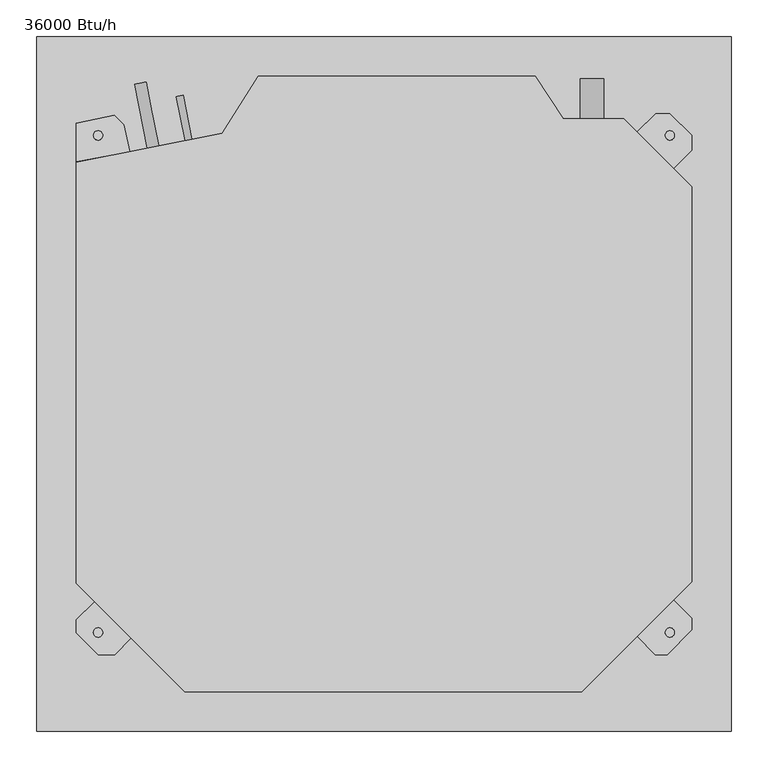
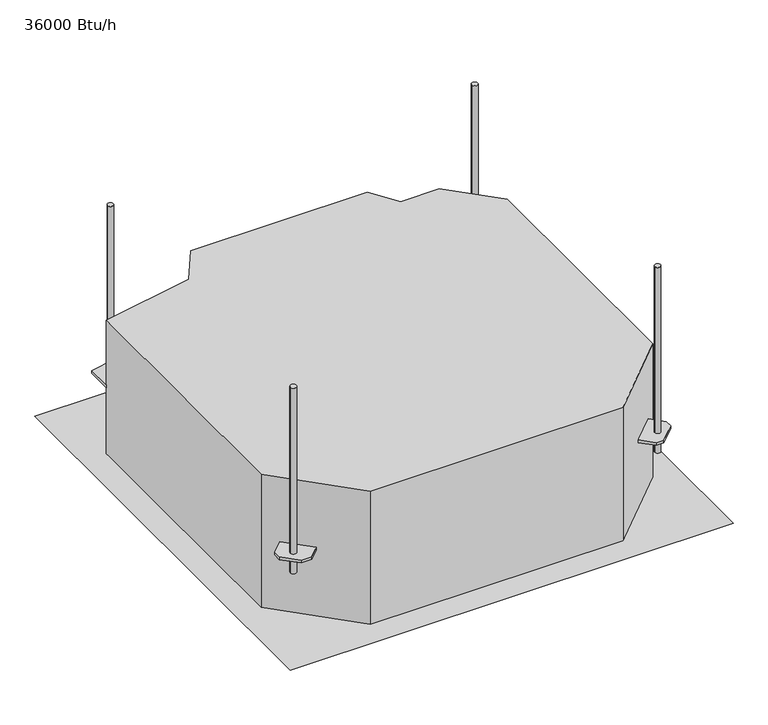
"""IFC4 building model written with IfcOpenShell, lengths in millimetres: proxy geometry, Heat_Pump_System-VRF-Lennox-Ceiling_Cassette-V33B_Series : 36000 Btu/h."""

from ifc_helpers import new_model, si_unit, point, frame, frame_2d, origin, origin_with_axes, place, context, project, spatial, polyline, circle_curve, ellipse_curve, trimmed, segment, composite_curve, outline, extrude, source, transform, mapped, element, save
from ifc_brep_helpers import plane_surface, cylinder_surface, advanced_brep


def proxy_36000_btu_h_1ba30d73(model_context):
    return source(origin(), model_context, "Body", "SolidModel", [
        advanced_brep(
        [(-271.5821113, 332.3930598, 149.6), (-262.2363052, 334.2319543, 149.6), (-266.9092082, 333.312507, 149.6), (-283.3992509, 392.4512636, 149.6), (-274.0534448, 394.290158, 149.6), (-278.7263478, 393.3707108, 149.6)],
        [
            (0, 1, circle_curve(frame((-266.9092082, 333.312507, 149.6), z_axis=(0.19305978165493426, -0.9811869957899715, 0.0), x_axis=(0.9811869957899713, 0.1930597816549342, 0.0)), 4.7625)),
            (1, 2),
            (2, 0),
            (1, 0, circle_curve(frame((-266.9092082, 333.312507, 149.6), z_axis=(0.19305978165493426, -0.9811869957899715, 0.0), x_axis=(0.9811869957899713, 0.1930597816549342, 0.0)), 4.7625)),
            (3, 4, circle_curve(frame((-278.7263478, 393.3707108, 149.6), z_axis=(0.19305978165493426, -0.9811869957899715, 0.0), x_axis=(0.9811869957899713, 0.1930597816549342, 0.0)), 4.7625)),
            (4, 1),
            (0, 3),
            (4, 3, circle_curve(frame((-278.7263478, 393.3707108, 149.6), z_axis=(0.19305978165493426, -0.9811869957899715, 0.0), x_axis=(0.9811869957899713, 0.1930597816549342, 0.0)), 4.7625)),
            (5, 4),
            (3, 5),
        ],
        [
            plane_surface(frame((-266.9092082, 333.312507, 149.6), z_axis=(0.19305978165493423, -0.9811869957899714, 0.0), x_axis=(0.9811869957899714, 0.19305978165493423, 0.0))),
            cylinder_surface(frame((-286.8962351, 434.892498, 149.6), z_axis=(-0.1930597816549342, 0.9811869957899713, 0.0), x_axis=(0.9811869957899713, 0.1930597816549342, 0.0)), 4.7625),
            plane_surface(frame((-278.7263478, 393.3707108, 149.6), z_axis=(-0.19305978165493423, 0.9811869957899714, 0.0), x_axis=(0.9811869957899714, 0.19305978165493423, 0.0))),
        ],
        [
            (0, [[1, 2, 3]]),
            (0, [[4, -3, -2]]),
            (1, [[5, 6, -1, 7]]),
            (1, [[8, -7, -4, -6]]),
            (2, [[9, -5, 10]]),
            (2, [[-10, -8, -9]]),
        ],
    ),
        advanced_brep(
        [(-323.3548557, 322.171397, 175.0), (-307.7803329, 325.24546, 175.0), (-315.5675943, 323.7084285, 175.0), (-340.5546493, 409.312937, 175.0), (-324.9801264, 412.3869999, 175.0), (-332.7673878, 410.8499685, 175.0)],
        [
            (0, 1, circle_curve(frame((-315.5675943, 323.7084285, 175.0), z_axis=(0.19364175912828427, -0.9810723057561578, 0.0), x_axis=(0.9810723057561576, 0.1936417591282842, 0.0)), 7.9375)),
            (1, 2),
            (2, 0),
            (1, 0, circle_curve(frame((-315.5675943, 323.7084285, 175.0), z_axis=(0.19364175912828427, -0.9810723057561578, 0.0), x_axis=(0.9810723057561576, 0.1936417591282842, 0.0)), 7.9375)),
            (3, 4, circle_curve(frame((-332.7673878, 410.8499685, 175.0), z_axis=(0.19364175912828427, -0.9810723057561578, 0.0), x_axis=(0.9810723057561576, 0.1936417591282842, 0.0)), 7.9375)),
            (4, 1),
            (0, 3),
            (4, 3, circle_curve(frame((-332.7673878, 410.8499685, 175.0), z_axis=(0.19364175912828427, -0.9810723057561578, 0.0), x_axis=(0.9810723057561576, 0.1936417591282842, 0.0)), 7.9375)),
            (5, 4),
            (3, 5),
        ],
        [
            plane_surface(frame((-315.5675943, 323.7084285, 175.0), z_axis=(0.19364175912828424, -0.9810723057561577, 0.0), x_axis=(0.9810723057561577, 0.19364175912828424, 0.0))),
            cylinder_surface(frame((-338.9155137, 441.9990142, 175.0), z_axis=(-0.1936417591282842, 0.9810723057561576, 0.0), x_axis=(0.9810723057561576, 0.1936417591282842, 0.0)), 7.9375),
            plane_surface(frame((-332.7673878, 410.8499685, 175.0), z_axis=(-0.19364175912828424, 0.9810723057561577, 0.0), x_axis=(0.9810723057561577, 0.19364175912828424, 0.0))),
        ],
        [
            (0, [[1, 2, 3]]),
            (0, [[4, -3, -2]]),
            (1, [[5, 6, -1, 7]]),
            (1, [[8, -7, -4, -6]]),
            (2, [[9, -5, 10]]),
            (2, [[-10, -8, -9]]),
        ],
    ),
        extrude(outline(composite_curve([segment(trimmed(circle_curve(frame_2d((238.5, 284.1166696)), 15.875), [point((238.5, 268.2416696))], [point((238.5, 299.9916696))], False, "CARTESIAN"), True, "CONTINUOUS"), segment(trimmed(circle_curve(frame_2d((238.5, 284.1166696)), 15.875), [point((238.5, 299.9916696))], [point((238.5, 268.2416696))], False, "CARTESIAN"), True, "CONTINUOUS")], self_intersect=False)), frame((0.0, 362.6637621, 0.0), z_axis=(0.0, 1.0, 0.0), x_axis=(0.0, 0.0, 1.0)), (0.0, 0.0, 1.0), 54.5217168),
        advanced_brep(
        [(-384.15, -339.5, 531.8360013), (-396.85, -339.5, 531.8360013), (-384.15, -339.5, 111.5), (-396.85, -339.5, 111.5), (-384.15, -339.5, 155.95), (-396.85, -339.5, 155.95), (-396.85, -339.5, 149.6), (-384.15, -339.5, 149.6), (-367.9974747, -369.4938, 155.95), (-345.3335843, -346.8023279, 155.95), (-395.0774029, -297.2585093, 155.95), (-420.497, -322.1791643, 155.95), (-420.497, -339.5, 155.95), (-390.5, -369.4938, 155.95), (-367.9974747, -369.4938, 149.6), (-390.5, -369.4938, 149.6), (-420.497, -339.5, 149.6), (-420.497, -322.1791643, 149.6), (-395.0774029, -297.2585093, 149.6), (-345.3335843, -346.8023279, 149.6)],
        [
            (0, 1, circle_curve(frame((-390.5, -339.5, 531.8360013), z_axis=(0.0, 0.0, 1.0), x_axis=(-1.0, 0.0, 0.0)), 6.35)),
            (1, 0, circle_curve(frame((-390.5, -339.5, 531.8360013), z_axis=(0.0, 0.0, 1.0), x_axis=(-1.0, 0.0, 0.0)), 6.35)),
            (2, 3, circle_curve(frame((-390.5, -339.5, 111.5), z_axis=(0.0, 0.0, -1.0), x_axis=(-1.0, 0.0, 0.0)), 6.35)),
            (3, 2, circle_curve(frame((-390.5, -339.5, 111.5), z_axis=(0.0, 0.0, -1.0), x_axis=(-1.0, 0.0, 0.0)), 6.35)),
            (0, 4),
            (4, 5, circle_curve(frame((-390.5, -339.5, 155.95), z_axis=(0.0, 0.0, 1.0), x_axis=(-1.0, 0.0, 0.0)), 6.35)),
            (5, 1),
            (3, 6),
            (6, 7, circle_curve(frame((-390.5, -339.5, 149.6), z_axis=(0.0, 0.0, -1.0), x_axis=(-1.0, 0.0, 0.0)), 6.35)),
            (7, 2),
            (5, 4, circle_curve(frame((-390.5, -339.5, 155.95), z_axis=(0.0, 0.0, 1.0), x_axis=(-1.0, 0.0, 0.0)), 6.35)),
            (7, 6, circle_curve(frame((-390.5, -339.5, 149.6), z_axis=(0.0, 0.0, -1.0), x_axis=(-1.0, 0.0, 0.0)), 6.35)),
            (8, 9),
            (9, 10),
            (10, 11),
            (11, 12),
            (12, 13),
            (13, 8),
            (14, 15),
            (15, 16),
            (16, 17),
            (17, 18),
            (18, 19),
            (19, 14),
            (8, 14),
            (19, 9),
            (10, 18),
            (17, 11),
            (16, 12),
            (15, 13),
        ],
        [
            plane_surface(frame((-396.85, -339.5, 531.8360013), z_axis=(0.0, 0.0, 1.0), x_axis=(0.0, -1.0, 0.0))),
            plane_surface(frame((-396.85, -339.5, 111.5), z_axis=(0.0, 0.0, -1.0), x_axis=(0.0, 1.0, 0.0))),
            cylinder_surface(frame((-390.5, -339.5, 111.5), z_axis=(0.0, 0.0, 1.0), x_axis=(-1.0, 0.0, 0.0)), 6.35),
            plane_surface(frame((395.6658777, -295.0900121, 155.95), z_axis=(0.0, 0.0, 1.0), x_axis=(-0.7107859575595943, 0.7034083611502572, 0.0))),
            plane_surface(frame((395.6658777, -295.0900121, 149.6), z_axis=(0.0, 0.0, -1.0), x_axis=(0.7107859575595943, -0.7034083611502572, 0.0))),
            plane_surface(frame((-367.9974747, -369.4938, 155.95), z_axis=(0.7075366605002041, -0.706676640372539, 0.0), x_axis=(0.0, 0.0, -1.0))),
            plane_surface(frame((-395.0774029, -297.2585093, 155.95), z_axis=(-0.700063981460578, 0.7140801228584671, 0.0), x_axis=(0.0, 0.0, -1.0))),
            plane_surface(frame((-420.497, -322.1791643, 155.95), z_axis=(-1.0, 0.0, 0.0), x_axis=(0.0, 0.0, -1.0))),
            plane_surface(frame((-420.497, -339.5, 155.95), z_axis=(-0.7070690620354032, -0.707144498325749, 0.0), x_axis=(0.0, 0.0, -1.0))),
            plane_surface(frame((-390.5, -369.4938, 155.95), z_axis=(0.0, -1.0, 0.0), x_axis=(0.0, 0.0, -1.0))),
            plane_surface(frame((-345.3335843, -346.8023279, 155.95), z_axis=(0.7056809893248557, 0.7085297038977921, 0.0), x_axis=(0.0, 0.0, -1.0))),
        ],
        [
            (0, [[1, 2]]),
            (1, [[3, 4]]),
            (2, [[-1, 5, 6, 7]]),
            (2, [[-4, 8, 9, 10]]),
            (2, [[-2, -7, 11, -5]]),
            (2, [[-3, -10, 12, -8]]),
            (3, [[13, 14, 15, 16, 17, 18], [-6, -11]]),
            (4, [[19, 20, 21, 22, 23, 24], [-9, -12]]),
            (5, [[-13, 25, -24, 26]]),
            (6, [[-15, 27, -22, 28]]),
            (7, [[-16, -28, -21, 29]]),
            (8, [[-17, -29, -20, 30]]),
            (9, [[-18, -30, -19, -25]]),
            (10, [[-14, -26, -23, -27]]),
        ],
    ),
        advanced_brep(
        [(396.85, -339.5, 531.8360013), (384.15, -339.5, 531.8360013), (396.85, -339.5, 111.5), (384.15, -339.5, 111.5), (396.85, -339.5, 155.95), (384.15, -339.5, 155.95), (384.15, -339.5, 149.6), (396.85, -339.5, 149.6), (420.497, -319.6634, 155.95), (395.6658777, -295.0900121, 155.95), (345.9327842, -344.6231057, 155.95), (370.7868978, -369.4938, 155.95), (386.933146, -369.4938, 155.95), (420.497, -335.933146, 155.95), (420.497, -319.6634, 149.6), (420.497, -335.933146, 149.6), (386.933146, -369.4938, 149.6), (370.7868978, -369.4938, 149.6), (345.9327842, -344.6231057, 149.6), (395.6658777, -295.0900121, 149.6)],
        [
            (0, 1, circle_curve(frame((390.5, -339.5, 531.8360013), z_axis=(0.0, 0.0, 1.0), x_axis=(-1.0, 0.0, 0.0)), 6.35)),
            (1, 0, circle_curve(frame((390.5, -339.5, 531.8360013), z_axis=(0.0, 0.0, 1.0), x_axis=(-1.0, 0.0, 0.0)), 6.35)),
            (2, 3, circle_curve(frame((390.5, -339.5, 111.5), z_axis=(0.0, 0.0, -1.0), x_axis=(-1.0, 0.0, 0.0)), 6.35)),
            (3, 2, circle_curve(frame((390.5, -339.5, 111.5), z_axis=(0.0, 0.0, -1.0), x_axis=(-1.0, 0.0, 0.0)), 6.35)),
            (0, 4),
            (4, 5, circle_curve(frame((390.5, -339.5, 155.95), z_axis=(0.0, 0.0, 1.0), x_axis=(-1.0, 0.0, 0.0)), 6.35)),
            (5, 1),
            (3, 6),
            (6, 7, circle_curve(frame((390.5, -339.5, 149.6), z_axis=(0.0, 0.0, -1.0), x_axis=(-1.0, 0.0, 0.0)), 6.35)),
            (7, 2),
            (5, 4, circle_curve(frame((390.5, -339.5, 155.95), z_axis=(0.0, 0.0, 1.0), x_axis=(-1.0, 0.0, 0.0)), 6.35)),
            (7, 6, circle_curve(frame((390.5, -339.5, 149.6), z_axis=(0.0, 0.0, -1.0), x_axis=(-1.0, 0.0, 0.0)), 6.35)),
            (8, 9),
            (9, 10),
            (10, 11),
            (11, 12),
            (12, 13),
            (13, 8),
            (14, 15),
            (15, 16),
            (16, 17),
            (17, 18),
            (18, 19),
            (19, 14),
            (10, 18),
            (17, 11),
            (16, 12),
            (15, 13),
            (14, 8),
            (19, 9),
        ],
        [
            plane_surface(frame((-396.85, -339.5, 531.8360013), z_axis=(0.0, 0.0, 1.0), x_axis=(0.0, -1.0, 0.0))),
            plane_surface(frame((-396.85, -339.5, 111.5), z_axis=(0.0, 0.0, -1.0), x_axis=(0.0, 1.0, 0.0))),
            cylinder_surface(frame((390.5, -339.5, -229.0), z_axis=(0.0, 0.0, 1.0), x_axis=(-1.0, 0.0, 0.0)), 6.35),
            plane_surface(frame((395.6658777, -295.0900121, 155.95), z_axis=(0.0, 0.0, 1.0), x_axis=(-0.7107859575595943, 0.7034083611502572, 0.0))),
            plane_surface(frame((395.6658777, -295.0900121, 149.6), z_axis=(0.0, 0.0, -1.0), x_axis=(0.7107859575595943, -0.7034083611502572, 0.0))),
            plane_surface(frame((345.9327842, -344.6231057, 155.95), z_axis=(-0.7073425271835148, -0.706870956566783, 0.0), x_axis=(0.0, 0.0, -1.0))),
            plane_surface(frame((370.7868978, -369.4938, 155.95), z_axis=(0.0, -1.0, 0.0), x_axis=(0.0, 0.0, -1.0))),
            plane_surface(frame((386.933146, -369.4938, 155.95), z_axis=(0.7070730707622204, -0.7071404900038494, 0.0), x_axis=(0.0, 0.0, -1.0))),
            plane_surface(frame((420.497, -335.933146, 155.95), z_axis=(1.0, 0.0, 0.0), x_axis=(0.0, 0.0, -1.0))),
            plane_surface(frame((420.497, -319.6634, 155.95), z_axis=(0.7034083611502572, 0.7107859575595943, 0.0), x_axis=(0.0, 0.0, -1.0))),
            plane_surface(frame((395.6658777, -295.0900121, 155.95), z_axis=(-0.7056806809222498, 0.7085300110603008, 0.0), x_axis=(0.0, 0.0, -1.0))),
        ],
        [
            (0, [[1, 2]]),
            (1, [[3, 4]]),
            (2, [[-1, 5, 6, 7]]),
            (2, [[-4, 8, 9, 10]]),
            (2, [[-2, -7, 11, -5]]),
            (2, [[-3, -10, 12, -8]]),
            (3, [[13, 14, 15, 16, 17, 18], [-6, -11]]),
            (4, [[19, 20, 21, 22, 23, 24], [-9, -12]]),
            (5, [[-15, 25, -22, 26]]),
            (6, [[-16, -26, -21, 27]]),
            (7, [[-17, -27, -20, 28]]),
            (8, [[-18, -28, -19, 29]]),
            (9, [[-13, -29, -24, 30]]),
            (10, [[-14, -30, -23, -25]]),
        ],
    ),
        advanced_brep(
        [(396.85, 339.5, 531.8360013), (384.15, 339.5, 531.8360013), (396.85, 339.5, 111.5), (384.15, 339.5, 111.5), (396.85, 339.5, 155.95), (384.15, 339.5, 155.95), (384.15, 339.5, 149.6), (396.85, 339.5, 149.6), (371.0025253, 369.4938, 155.95), (345.9646499, 344.4231555, 155.95), (395.65445, 294.9333553, 155.95), (420.497, 319.3483007, 155.95), (420.497, 339.5, 155.95), (390.5, 369.4938, 155.95), (371.0025253, 369.4938, 149.6), (390.5, 369.4938, 149.6), (420.497, 339.5, 149.6), (420.497, 319.3483007, 149.6), (395.65445, 294.9333553, 149.6), (345.9646499, 344.4231555, 149.6)],
        [
            (0, 1, circle_curve(frame((390.5, 339.5, 531.8360013), z_axis=(0.0, 0.0, 1.0), x_axis=(-1.0, 0.0, 0.0)), 6.35)),
            (1, 0, circle_curve(frame((390.5, 339.5, 531.8360013), z_axis=(0.0, 0.0, 1.0), x_axis=(-1.0, 0.0, 0.0)), 6.35)),
            (2, 3, circle_curve(frame((390.5, 339.5, 111.5), z_axis=(0.0, 0.0, -1.0), x_axis=(-1.0, 0.0, 0.0)), 6.35)),
            (3, 2, circle_curve(frame((390.5, 339.5, 111.5), z_axis=(0.0, 0.0, -1.0), x_axis=(-1.0, 0.0, 0.0)), 6.35)),
            (0, 4),
            (4, 5, circle_curve(frame((390.5, 339.5, 155.95), z_axis=(0.0, 0.0, 1.0), x_axis=(-1.0, 0.0, 0.0)), 6.35)),
            (5, 1),
            (3, 6),
            (6, 7, circle_curve(frame((390.5, 339.5, 149.6), z_axis=(0.0, 0.0, -1.0), x_axis=(-1.0, 0.0, 0.0)), 6.35)),
            (7, 2),
            (5, 4, circle_curve(frame((390.5, 339.5, 155.95), z_axis=(0.0, 0.0, 1.0), x_axis=(-1.0, 0.0, 0.0)), 6.35)),
            (7, 6, circle_curve(frame((390.5, 339.5, 149.6), z_axis=(0.0, 0.0, -1.0), x_axis=(-1.0, 0.0, 0.0)), 6.35)),
            (8, 9),
            (9, 10),
            (10, 11),
            (11, 12),
            (12, 13),
            (13, 8),
            (14, 15),
            (15, 16),
            (16, 17),
            (17, 18),
            (18, 19),
            (19, 14),
            (10, 18),
            (17, 11),
            (16, 12),
            (15, 13),
            (14, 8),
            (19, 9),
        ],
        [
            plane_surface(frame((-396.85, -339.5, 531.8360013), z_axis=(0.0, 0.0, 1.0), x_axis=(0.0, -1.0, 0.0))),
            plane_surface(frame((-396.85, -339.5, 111.5), z_axis=(0.0, 0.0, -1.0), x_axis=(0.0, 1.0, 0.0))),
            cylinder_surface(frame((390.5, 339.5, -229.0), z_axis=(0.0, 0.0, 1.0), x_axis=(-1.0, 0.0, 0.0)), 6.35),
            plane_surface(frame((395.6658777, -295.0900121, 155.95), z_axis=(0.0, 0.0, 1.0), x_axis=(-0.7107859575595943, 0.7034083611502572, 0.0))),
            plane_surface(frame((395.6658777, -295.0900121, 149.6), z_axis=(0.0, 0.0, -1.0), x_axis=(0.7107859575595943, -0.7034083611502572, 0.0))),
            plane_surface(frame((395.65445, 294.9333553, 155.95), z_axis=(0.7009419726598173, -0.7132183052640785, 0.0), x_axis=(0.0, 0.0, -1.0))),
            plane_surface(frame((420.497, 319.3483007, 155.95), z_axis=(1.0, 0.0, 0.0), x_axis=(0.0, 0.0, -1.0))),
            plane_surface(frame((420.497, 339.5, 155.95), z_axis=(0.7070690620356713, 0.707144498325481, 0.0), x_axis=(0.0, 0.0, -1.0))),
            plane_surface(frame((390.5, 369.4938, 155.95), z_axis=(0.0, 1.0, 0.0), x_axis=(0.0, 0.0, -1.0))),
            plane_surface(frame((371.0025253, 369.4938, 155.95), z_axis=(-0.7075690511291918, 0.7066442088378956, 0.0), x_axis=(0.0, 0.0, -1.0))),
            plane_surface(frame((345.9646499, 344.4231555, 155.95), z_axis=(-0.7056794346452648, -0.7085312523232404, 0.0), x_axis=(0.0, 0.0, -1.0))),
        ],
        [
            (0, [[1, 2]]),
            (1, [[3, 4]]),
            (2, [[-1, 5, 6, 7]]),
            (2, [[-4, 8, 9, 10]]),
            (2, [[-2, -7, 11, -5]]),
            (2, [[-3, -10, 12, -8]]),
            (3, [[13, 14, 15, 16, 17, 18], [-6, -11]]),
            (4, [[19, 20, 21, 22, 23, 24], [-9, -12]]),
            (5, [[-15, 25, -22, 26]]),
            (6, [[-16, -26, -21, 27]]),
            (7, [[-17, -27, -20, 28]]),
            (8, [[-18, -28, -19, 29]]),
            (9, [[-13, -29, -24, 30]]),
            (10, [[-14, -30, -23, -25]]),
        ],
    ),
        advanced_brep(
        [(-384.15, 339.5, 531.8360013), (-396.85, 339.5, 531.8360013), (-384.15, 339.5, 111.5), (-396.85, 339.5, 111.5), (-384.15, 339.5, 155.95), (-396.85, 339.5, 155.95), (-396.85, 339.5, 149.6), (-384.15, 339.5, 149.6), (-420.497, 356.3926136, 155.95), (-420.497, 303.3475221, 155.95), (-347.5425513, 317.4885504, 155.95), (-355.2974559, 354.2974559, 155.95), (-368.460212, 367.454012, 155.95), (-420.497, 356.3926136, 149.6), (-368.460212, 367.454012, 149.6), (-355.2974559, 354.2974559, 149.6), (-347.5425513, 317.4885504, 149.6), (-420.497, 303.3475221, 149.6)],
        [
            (0, 1, circle_curve(frame((-390.5, 339.5, 531.8360013), z_axis=(0.0, 0.0, 1.0), x_axis=(-1.0, 0.0, 0.0)), 6.35)),
            (1, 0, circle_curve(frame((-390.5, 339.5, 531.8360013), z_axis=(0.0, 0.0, 1.0), x_axis=(-1.0, 0.0, 0.0)), 6.35)),
            (2, 3, circle_curve(frame((-390.5, 339.5, 111.5), z_axis=(0.0, 0.0, -1.0), x_axis=(-1.0, 0.0, 0.0)), 6.35)),
            (3, 2, circle_curve(frame((-390.5, 339.5, 111.5), z_axis=(0.0, 0.0, -1.0), x_axis=(-1.0, 0.0, 0.0)), 6.35)),
            (0, 4),
            (4, 5, circle_curve(frame((-390.5, 339.5, 155.95), z_axis=(0.0, 0.0, 1.0), x_axis=(-1.0, 0.0, 0.0)), 6.35)),
            (5, 1),
            (3, 6),
            (6, 7, circle_curve(frame((-390.5, 339.5, 149.6), z_axis=(0.0, 0.0, -1.0), x_axis=(-1.0, 0.0, 0.0)), 6.35)),
            (7, 2),
            (5, 4, circle_curve(frame((-390.5, 339.5, 155.95), z_axis=(0.0, 0.0, 1.0), x_axis=(-1.0, 0.0, 0.0)), 6.35)),
            (7, 6, circle_curve(frame((-390.5, 339.5, 149.6), z_axis=(0.0, 0.0, -1.0), x_axis=(-1.0, 0.0, 0.0)), 6.35)),
            (8, 9),
            (9, 10),
            (10, 11),
            (11, 12),
            (12, 8),
            (13, 14),
            (14, 15),
            (15, 16),
            (16, 17),
            (17, 13),
            (8, 13),
            (17, 9),
            (10, 16),
            (15, 11),
            (14, 12),
        ],
        [
            plane_surface(frame((-396.85, -339.5, 531.8360013), z_axis=(0.0, 0.0, 1.0), x_axis=(0.0, -1.0, 0.0))),
            plane_surface(frame((-396.85, -339.5, 111.5), z_axis=(0.0, 0.0, -1.0), x_axis=(0.0, 1.0, 0.0))),
            cylinder_surface(frame((-390.5, 339.5, -229.0), z_axis=(0.0, 0.0, 1.0), x_axis=(-1.0, 0.0, 0.0)), 6.35),
            plane_surface(frame((395.6658777, -295.0900121, 155.95), z_axis=(0.0, 0.0, 1.0), x_axis=(-0.7107859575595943, 0.7034083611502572, 0.0))),
            plane_surface(frame((395.6658777, -295.0900121, 149.6), z_axis=(0.0, 0.0, -1.0), x_axis=(0.7107859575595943, -0.7034083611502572, 0.0))),
            plane_surface(frame((-420.497, 356.3926136, 155.95), z_axis=(-1.0, 0.0, 0.0), x_axis=(0.0, 0.0, -1.0))),
            plane_surface(frame((-347.5425513, 317.4885504, 155.95), z_axis=(0.9785194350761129, 0.20615459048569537, 0.0), x_axis=(0.0, 0.0, -1.0))),
            plane_surface(frame((-355.2974559, 354.2974559, 155.95), z_axis=(0.7069401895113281, 0.7072733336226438, 0.0), x_axis=(0.0, 0.0, -1.0))),
            plane_surface(frame((-368.460212, 367.454012, 155.95), z_axis=(-0.20792315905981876, 0.9781451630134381, 0.0), x_axis=(0.0, 0.0, -1.0))),
            plane_surface(frame((-420.497, 303.3475221, 155.95), z_axis=(0.19029185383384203, -0.9817275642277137, 0.0), x_axis=(0.0, 0.0, -1.0))),
        ],
        [
            (0, [[1, 2]]),
            (1, [[3, 4]]),
            (2, [[-1, 5, 6, 7]]),
            (2, [[-4, 8, 9, 10]]),
            (2, [[-2, -7, 11, -5]]),
            (2, [[-3, -10, 12, -8]]),
            (3, [[13, 14, 15, 16, 17], [-6, -11]]),
            (4, [[18, 19, 20, 21, 22], [-9, -12]]),
            (5, [[-13, 23, -22, 24]]),
            (6, [[-15, 25, -20, 26]]),
            (7, [[-16, -26, -19, 27]]),
            (8, [[-17, -27, -18, -23]]),
            (9, [[-14, -24, -21, -25]]),
        ],
    ),
        extrude(outline(polyline([(420.5, -269.9058898), (269.9058898, -420.5), (-271.8609122, -420.5), (-420.5, -271.8609122), (-420.5, 303.1476072), (-221.0865009, 342.3618204), (-171.6708706, 420.5), (206.4890403, 420.5), (245.0921409, 362.6637621), (327.5990432, 362.6637621), (420.5, 269.7628054), (420.5, -269.9058898)])), origin_with_axes(), (0.0, 0.0, 1.0), 302.0),
        advanced_brep(
        [(-474.5, 474.5, 0.0), (-354.8, 354.8, -44.45), (-354.8, -354.8, -44.45), (-474.5, -474.5, 0.0), (-304.8, 304.8, -44.45), (-304.8, 304.8, 0.0), (-304.8, -304.8, 0.0), (-304.8, -304.8, -44.45), (354.8, -354.8, -44.45), (474.5, -474.5, 0.0), (304.8, -304.8, 0.0), (304.8, -304.8, -44.45), (354.8, 354.8, -44.45), (474.5, 474.5, 0.0), (304.8, 304.8, 0.0), (304.8, 304.8, -44.45)],
        [
            (0, 1, ellipse_curve(frame((-354.8, 354.8, 138.9458661), z_axis=(-0.7071067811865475, -0.7071067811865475, 0.0), x_axis=(-0.7071067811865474, 0.7071067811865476, 0.0)), 259.3609212, 183.3958661)),
            (1, 2),
            (2, 3, ellipse_curve(frame((-354.8, -354.8, 138.9458661), z_axis=(-0.7071067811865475, 0.7071067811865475, 0.0), x_axis=(0.7071067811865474, 0.7071067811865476, 0.0)), 259.3609212, 183.3958661)),
            (3, 0),
            (4, 5),
            (5, 6),
            (6, 7),
            (7, 4),
            (2, 8),
            (8, 9, ellipse_curve(frame((354.8, -354.8, 138.9458661), z_axis=(-0.7071067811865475, -0.7071067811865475, 0.0), x_axis=(-0.7071067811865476, 0.7071067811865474, 0.0)), 259.3609212, 183.3958661)),
            (9, 3),
            (6, 10),
            (10, 11),
            (11, 7),
            (8, 12),
            (12, 13, ellipse_curve(frame((354.8, 354.8, 138.9458661), z_axis=(0.7071067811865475, -0.7071067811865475, 0.0), x_axis=(-0.7071067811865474, -0.7071067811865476, 0.0)), 259.3609212, 183.3958661)),
            (13, 9),
            (10, 14),
            (14, 15),
            (15, 11),
            (1, 12),
            (15, 4),
            (0, 13),
            (5, 14),
        ],
        [
            cylinder_surface(frame((-354.8, 304.8, 138.9458661), z_axis=(0.0, 1.0, 0.0), x_axis=(1.0, 0.0, 0.0)), 183.3958661),
            plane_surface(frame((-304.8, 304.8, 0.0), z_axis=(1.0, 0.0, 0.0), x_axis=(0.0, -1.0, 0.0))),
            cylinder_surface(frame((-304.8, -354.8, 138.9458661), z_axis=(-1.0, 0.0, 0.0), x_axis=(0.0, 1.0, 0.0)), 183.3958661),
            plane_surface(frame((-304.8, -304.8, 0.0), z_axis=(0.0, 1.0, 0.0), x_axis=(1.0, 0.0, 0.0))),
            cylinder_surface(frame((354.8, -304.8, 138.9458661), z_axis=(0.0, -1.0, 0.0), x_axis=(-1.0, 0.0, 0.0)), 183.3958661),
            plane_surface(frame((304.8, -304.8, 0.0), z_axis=(-1.0, 0.0, 0.0), x_axis=(0.0, 1.0, 0.0))),
            plane_surface(frame((304.8, 304.8, -44.45), z_axis=(0.0, 0.0, -1.0), x_axis=(-1.0, 0.0, 0.0))),
            cylinder_surface(frame((304.8, 354.8, 138.9458661), z_axis=(1.0, 0.0, 0.0), x_axis=(0.0, -1.0, 0.0)), 183.3958661),
            plane_surface(frame((474.5, 474.5, 0.0), z_axis=(0.0, 0.0, 1.0), x_axis=(-1.0, 0.0, 0.0))),
            plane_surface(frame((304.8, 304.8, 0.0), z_axis=(0.0, -1.0, 0.0), x_axis=(-1.0, 0.0, 0.0))),
        ],
        [
            (0, [[1, 2, 3, 4]]),
            (1, [[5, 6, 7, 8]]),
            (2, [[-3, 9, 10, 11]]),
            (3, [[-7, 12, 13, 14]]),
            (4, [[-10, 15, 16, 17]]),
            (5, [[-13, 18, 19, 20]]),
            (6, [[21, -15, -9, -2], [-14, -20, 22, -8]]),
            (7, [[-16, -21, -1, 23]]),
            (8, [[-11, -17, -23, -4], [24, -18, -12, -6]]),
            (9, [[-19, -24, -5, -22]]),
        ],
    ),
        extrude(outline(polyline([(304.8, 304.8), (304.8, -304.8), (-304.8, -304.8), (-304.8, 304.8), (304.8, 304.8)])), frame((0.0, 0.0, -44.45), z_axis=(0.0, 0.0, 1.0), x_axis=(1.0, 0.0, 0.0)), (0.0, 0.0, 1.0), 44.45),
    ])


if __name__ == "__main__":
    model = new_model("IFC4")
    model_context = context("Model", 3, world=origin())
    ifc_project = project(units=[si_unit("LENGTHUNIT", "METRE", prefix="MILLI")], contexts=[model_context])
    site = spatial("IfcSite", under=ifc_project)
    building = spatial("IfcBuilding", under=site)
    placement = place(None, origin())
    proxy_36000_btu_h_shape = proxy_36000_btu_h_1ba30d73(model_context)
    element("IfcBuildingElementProxy", 1, Name="Heat_Pump_System-VRF-Lennox-Ceiling_Cassette-V33B_Series : 36000 Btu/h", ObjectType="Heat_Pump_System-VRF-Lennox-Ceiling_Cassette-V33B_Series : 36000 Btu/h", at=placement, inside=building, context=model_context, shape_type="MappedRepresentation", body=[
        mapped(proxy_36000_btu_h_shape, transform((0.0, 0.0, 0.0), x_axis=(1.0, 0.0, 0.0), y_axis=(0.0, 1.0, 0.0), z_axis=(0.0, 0.0, 1.0))),
    ])
    save(model, "model.ifc")
